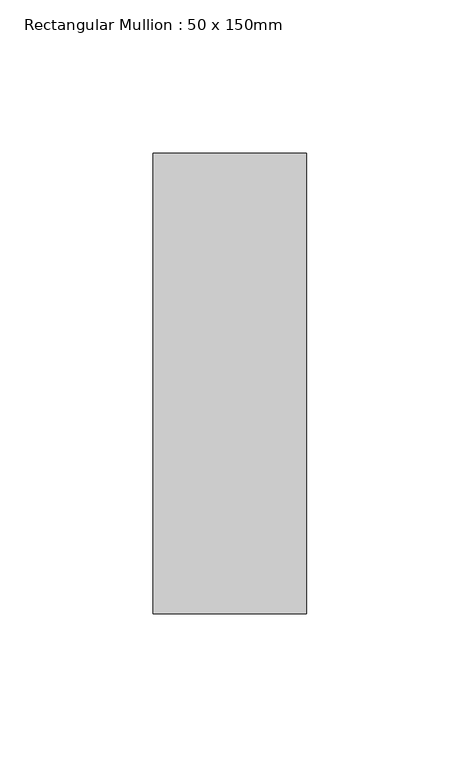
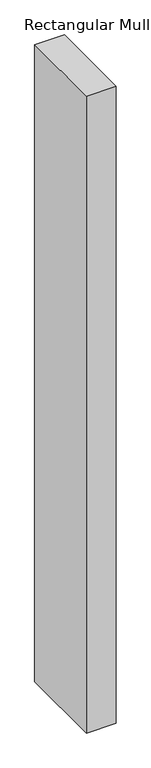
"""IFC4 building model written with IfcOpenShell, lengths in millimetres: member geometry, Rectangular Mullion : 50 x 150mm."""

import ifcopenshell
import ifcopenshell.guid

model = None  # the IFC model being written
_history = None  # IfcOwnerHistory: only IFC2X3 demands one
_inside = {}  # id of a spatial element -> (the spatial element, [elements in it])
_under = {}  # id of a project, library or spatial element -> (it, [spatial elements below it])
_declared = {}  # id of a project -> (the project, [libraries it declares])
_typed = {}  # id of a type object -> (the type object, [elements of that type])
_made_of = {}  # id of a material, layer set ... -> (it, [elements and type objects made of it])


def new_model(schema):
    """Start an empty IFC model of exactly this schema.

    Asked for "IFC4X3", IfcOpenShell would pick the latest addendum, in which some entities
    have other attributes; the version numbers below select the first issue.
    IFC2X3 requires an IfcOwnerHistory on every rooted entity: one is made here for all.
    """
    global model, _history
    if schema == "IFC4X3":
        model = ifcopenshell.file(schema_version=(4, 3, 0, 0))
    else:
        model = ifcopenshell.file(schema=schema)
    _inside.clear()
    _under.clear()
    _declared.clear()
    _typed.clear()
    _made_of.clear()
    _history = None
    if model.schema == "IFC2X3":
        org = make("IfcOrganization", Name="unknown")
        user = make(
            "IfcPersonAndOrganization",
            ThePerson=make("IfcPerson", FamilyName="unknown"),
            TheOrganization=org,
        )
        app = make(
            "IfcApplication",
            ApplicationDeveloper=org,
            Version="unknown",
            ApplicationFullName="unknown",
            ApplicationIdentifier="unknown",
        )
        _history = make(
            "IfcOwnerHistory",
            OwningUser=user,
            OwningApplication=app,
            ChangeAction="ADDED",
            CreationDate=0,
        )
    return model


def make(cls, **values):
    """One entity of the class cls with the attributes given. An attribute that is None is left unset."""
    return model.create_entity(
        cls, **{name: value for name, value in values.items() if value is not None}
    )


def rooted(cls, **values):
    """An entity with a GlobalId (a new one), such as an element, a storey or a relation."""
    return make(cls, GlobalId=ifcopenshell.guid.new(), OwnerHistory=_history, **values)


def si_unit(unit_type, name, prefix=None):
    """IfcSIUnit, for example si_unit("LENGTHUNIT", "METRE", prefix="MILLI")."""
    return make("IfcSIUnit", UnitType=unit_type, Prefix=prefix, Name=name)


def assignment(units):
    """IfcUnitAssignment: the units of a project."""
    return None if units is None else make("IfcUnitAssignment", Units=units)


def point(xyz):
    """IfcCartesianPoint."""
    return None if xyz is None else make("IfcCartesianPoint", Coordinates=xyz)


def direction(xyz):
    """IfcDirection."""
    return None if xyz is None else make("IfcDirection", DirectionRatios=xyz)


def frame(location, z_axis=None, x_axis=None):
    """IfcAxis2Placement3D, a coordinate frame: its origin and axes. An axis left out is left unset."""
    return make(
        "IfcAxis2Placement3D",
        Location=point(location),
        Axis=direction(z_axis),
        RefDirection=direction(x_axis),
    )


def origin():
    """The frame at (0, 0, 0) with its axes left unset."""
    return frame((0.0, 0.0, 0.0))


def place(relative_to, where):
    """IfcLocalPlacement: puts the frame where relative to a parent placement (None: the world)."""
    return make(
        "IfcLocalPlacement", PlacementRelTo=relative_to, RelativePlacement=where
    )


def context(
    kind, dimensions, precision=None, world=None, true_north=None, identifier=None
):
    """IfcGeometricRepresentationContext, for example the 3D "Model" context."""
    return make(
        "IfcGeometricRepresentationContext",
        ContextIdentifier=identifier,
        ContextType=kind,
        CoordinateSpaceDimension=dimensions,
        Precision=precision,
        WorldCoordinateSystem=world,
        TrueNorth=true_north,
    )


def project(units=None, contexts=None):
    """IfcProject with its units and contexts."""
    return rooted(
        "IfcProject",
        Name="project",
        RepresentationContexts=contexts,
        UnitsInContext=assignment(units),
    )


def spatial(cls, under=None, at=None, **own):
    """A site, building, storey or space (cls), placed at a placement, below another one or the project."""
    s = rooted(cls, ObjectPlacement=at, **own)
    if under is not None:
        _under.setdefault(under.id(), (under, []))[1].append(s)
    return s


def polyline(points):
    """IfcPolyline through the points."""
    return make("IfcPolyline", Points=[point(p) for p in points])


def outline(outer, holes=None, kind="AREA"):
    """IfcArbitraryClosedProfileDef: a profile drawn as a closed curve; with holes, ...WithVoids."""
    if holes is None:
        return make("IfcArbitraryClosedProfileDef", ProfileType=kind, OuterCurve=outer)
    return make(
        "IfcArbitraryProfileDefWithVoids",
        ProfileType=kind,
        OuterCurve=outer,
        InnerCurves=holes,
    )


def extrude(swept, where, along, depth):
    """IfcExtrudedAreaSolid: the profile swept, set in the frame where, extruded along a direction by depth."""
    return make(
        "IfcExtrudedAreaSolid",
        SweptArea=swept,
        Position=where,
        ExtrudedDirection=direction(along),
        Depth=depth,
    )


def shape(context_of_items, identifier, shape_type, items):
    """IfcShapeRepresentation: the items that make up one representation, for example the "Body"."""
    return make(
        "IfcShapeRepresentation",
        ContextOfItems=context_of_items,
        RepresentationIdentifier=identifier,
        RepresentationType=shape_type,
        Items=items,
    )


def source(mapping_origin, context_of_items, identifier, shape_type, items):
    """IfcRepresentationMap: a shape defined once, which mapped items show again and again."""
    return make(
        "IfcRepresentationMap",
        MappingOrigin=mapping_origin,
        MappedRepresentation=shape(context_of_items, identifier, shape_type, items),
    )


def transform(
    local_origin,
    x_axis=None,
    y_axis=None,
    z_axis=None,
    scale=None,
    scale2=None,
    scale3=None,
    uniform=True,
):
    """IfcCartesianTransformationOperator3D, or its non-uniform kind. x_axis, y_axis, z_axis: its Axis1, 2, 3."""
    if uniform:
        return make(
            "IfcCartesianTransformationOperator3D",
            Axis1=direction(x_axis),
            Axis2=direction(y_axis),
            LocalOrigin=point(local_origin),
            Scale=scale,
            Axis3=direction(z_axis),
        )
    return make(
        "IfcCartesianTransformationOperator3DnonUniform",
        Axis1=direction(x_axis),
        Axis2=direction(y_axis),
        LocalOrigin=point(local_origin),
        Scale=scale,
        Axis3=direction(z_axis),
        Scale2=scale2,
        Scale3=scale3,
    )


def mapped(mapping_source, mapping_target):
    """IfcMappedItem: shows the shape of a source again, moved by a transform."""
    return make(
        "IfcMappedItem", MappingSource=mapping_source, MappingTarget=mapping_target
    )


def made_of(thing, what):
    """Note that an element or type object is made of a material, layer set ...; save() writes the relation."""
    if what is not None:
        _made_of.setdefault(what.id(), (what, []))[1].append(thing)
    return thing


def element(
    cls,
    number,
    at=None,
    inside=None,
    cuts=None,
    type_object=None,
    material=None,
    context=None,
    identifier="Body",
    shape_type=None,
    held_by="IfcProductDefinitionShape",
    body=None,
    shapes=None,
    **own,
):
    """One element of the class cls, such as IfcWall. Its Tag is "e" and its number.

    at: its placement. inside: the storey or other place that contains it. cuts: it is an
    opening in that element (IfcRelVoidsElement). A single representation is given by context,
    identifier, shape_type and body (its items); several are given by shapes. held_by: the class
    of the entity that holds the representations. save() writes the other relations.
    """
    e = rooted(cls, Tag="e%d" % number, ObjectPlacement=at, **own)
    if body is not None:
        shapes = [shape(context, identifier, shape_type, body)]
    if shapes is not None:
        e.Representation = make(held_by, Representations=shapes)
    if inside is not None:
        _inside.setdefault(inside.id(), (inside, []))[1].append(e)
    if cuts is not None:
        rooted(
            "IfcRelVoidsElement", RelatingBuildingElement=cuts, RelatedOpeningElement=e
        )
    if type_object is not None:
        _typed.setdefault(type_object.id(), (type_object, []))[1].append(e)
    return made_of(e, material)


def aggregate(whole, parts):
    """IfcRelAggregates: a whole, such as a stair, and the parts it consists of."""
    return rooted("IfcRelAggregates", RelatingObject=whole, RelatedObjects=parts)


def save(model, path):
    """Write the relations noted so far, then the file.

    IfcRelAggregates (storeys below a building ...), IfcRelContainedInSpatialStructure (elements
    in a storey), IfcRelDefinesByType, IfcRelAssociatesMaterial and IfcRelDeclares: one each for
    every whole, place, type object, material and project.
    """
    for whole, parts in _under.values():
        aggregate(whole, parts)
    for where, things in _inside.values():
        rooted(
            "IfcRelContainedInSpatialStructure",
            RelatedElements=things,
            RelatingStructure=where,
        )
    for kind, things in _typed.values():
        rooted("IfcRelDefinesByType", RelatedObjects=things, RelatingType=kind)
    for what, things in _made_of.values():
        rooted("IfcRelAssociatesMaterial", RelatedObjects=things, RelatingMaterial=what)
    for by, libraries in _declared.values():
        rooted("IfcRelDeclares", RelatingContext=by, RelatedDefinitions=libraries)
    model.write(path)


def rectangular_mullion_50_x_150mm_d2985cef(model_context):
    return source(origin(), model_context, "Body", "SweptSolid", [
        extrude(outline(polyline([(0.0, 75.0), (0.0, -75.0), (-50.0, -75.0), (-50.0, 75.0), (0.0, 75.0)])), frame((0.0, 0.0, -1129.1667552), z_axis=(0.0, 0.0, 1.0), x_axis=(1.0, 0.0, 0.0)), (0.0, 0.0, 1.0), 1129.1667552),
    ])


if __name__ == "__main__":
    model = new_model("IFC4")
    model_context = context("Model", 3, world=origin())
    ifc_project = project(units=[si_unit("LENGTHUNIT", "METRE", prefix="MILLI")], contexts=[model_context])
    site = spatial("IfcSite", under=ifc_project)
    building = spatial("IfcBuilding", under=site)
    placement = place(None, origin())
    rectangular_mullion_50_x_150mm_shape = rectangular_mullion_50_x_150mm_d2985cef(model_context)
    element("IfcMember", 1, ObjectType="Rectangular Mullion : 50 x 150mm", at=placement, inside=building, context=model_context, shape_type="MappedRepresentation", body=[
        mapped(rectangular_mullion_50_x_150mm_shape, transform((0.0, 0.0, 0.0), x_axis=(1.0, 0.0, 0.0), y_axis=(0.0, 1.0, 0.0), z_axis=(0.0, 0.0, 1.0))),
    ])
    save(model, "model.ifc")
